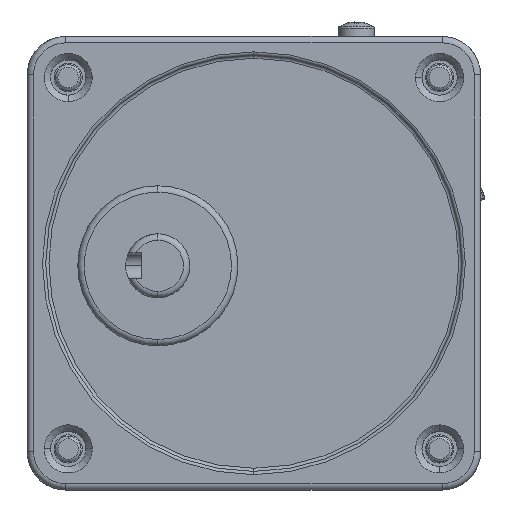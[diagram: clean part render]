
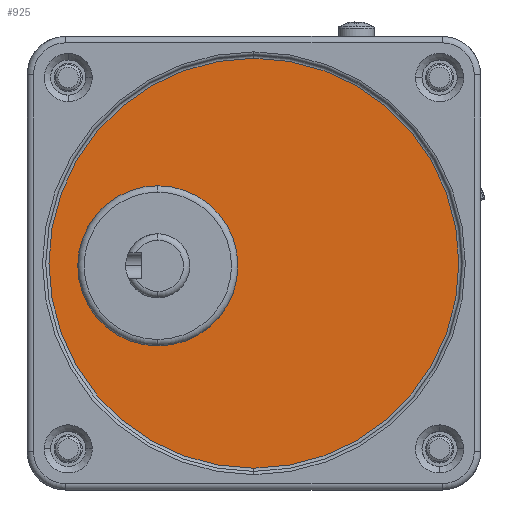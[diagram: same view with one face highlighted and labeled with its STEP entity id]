
A CAD part, front view. The second image highlights one B-rep face of the part: STEP entity #925.
In plain terms, the highlighted planar face has unit normal (0, -1, 0) as drawn and (0, 0, 1) by its records, which use the part's own axes.
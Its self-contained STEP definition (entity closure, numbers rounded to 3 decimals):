
#925 = ADVANCED_FACE ( 'NONE', ( #18598 ), #1254, .T. ) ;
#1254 = PLANE ( 'NONE',  #3024 ) ;
#3024 = AXIS2_PLACEMENT_3D ( 'NONE', #12312, #18891, #25196 ) ;
#4052 = DIRECTION ( 'NONE',  ( 0., 0., -1. ) ) ;
#4280 = CIRCLE ( 'NONE', #22150, 32. ) ;
#7974 = CARTESIAN_POINT ( 'NONE',  ( -32., 0., 31. ) ) ;
#8086 = DIRECTION ( 'NONE',  ( 1., 0., 0. ) ) ;
#11219 = EDGE_CURVE ( 'NONE', #20300, #23437, #27075, .T. ) ;
#12312 = CARTESIAN_POINT ( 'NONE',  ( 0., 0., 31. ) ) ;
#13026 = EDGE_CURVE ( 'NONE', #23437, #20300, #4280, .T. ) ;
#14984 = CARTESIAN_POINT ( 'NONE',  ( 0., 0., 31. ) ) ;
#15093 = DIRECTION ( 'NONE',  ( -1., 0., 0. ) ) ;
#16544 = AXIS2_PLACEMENT_3D ( 'NONE', #14984, #4052, #8086 ) ;
#17263 = ORIENTED_EDGE ( 'NONE', *, *, #11219, .F. ) ;
#18120 = ORIENTED_EDGE ( 'NONE', *, *, #13026, .F. ) ;
#18598 = FACE_OUTER_BOUND ( 'NONE', #24643, .T. ) ;
#18891 = DIRECTION ( 'NONE',  ( 0., 0., 1. ) ) ;
#20300 = VERTEX_POINT ( 'NONE', #27879 ) ;
#22150 = AXIS2_PLACEMENT_3D ( 'NONE', #26528, #25965, #15093 ) ;
#23437 = VERTEX_POINT ( 'NONE', #7974 ) ;
#24643 = EDGE_LOOP ( 'NONE', ( #17263, #18120 ) ) ;
#25196 = DIRECTION ( 'NONE',  ( 1., 0., 0. ) ) ;
#25965 = DIRECTION ( 'NONE',  ( 0., 0., -1. ) ) ;
#26528 = CARTESIAN_POINT ( 'NONE',  ( 0., 0., 31. ) ) ;
#27075 = CIRCLE ( 'NONE', #16544, 32. ) ;
#27879 = CARTESIAN_POINT ( 'NONE',  ( 32., 0., 31. ) ) ;
